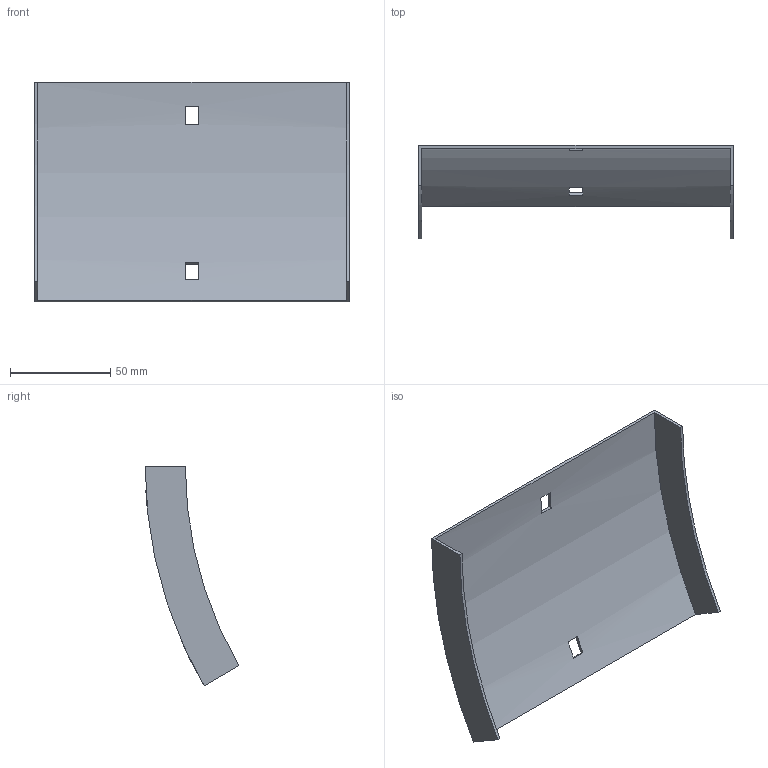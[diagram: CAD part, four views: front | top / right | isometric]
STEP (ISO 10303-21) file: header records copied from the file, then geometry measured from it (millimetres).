
FILE_DESCRIPTION (( 'STEP AP214' ), '1' );
FILE_NAME ('35N1J150.step', '2025-02-21T09:11:21', ( '' ), ( '' ), 'SwSTEP 2.0', 'SolidWorks 2023', '' );
FILE_SCHEMA (( 'AUTOMOTIVE_DESIGN' ));
Length unit declared in the file: millimetre
Products named in the file (1): 35N1J150
Bounding box: 157 x 46.66 x 109.5 mm (x, y, z)
Volume: 32787.5 mm3; surface area: 44705.8 mm2
Topology: 1 solids, 1 shells, 18 faces, 48 edges, 32 vertices
Faces by surface type: plane 14, cylinder 4
Entity records: 599 total; most frequent: DIRECTION 102, CARTESIAN_POINT 99, ORIENTED_EDGE 96, EDGE_CURVE 48, AXIS2_PLACEMENT_3D 35, VECTOR 32, VERTEX_POINT 32, LINE 32
